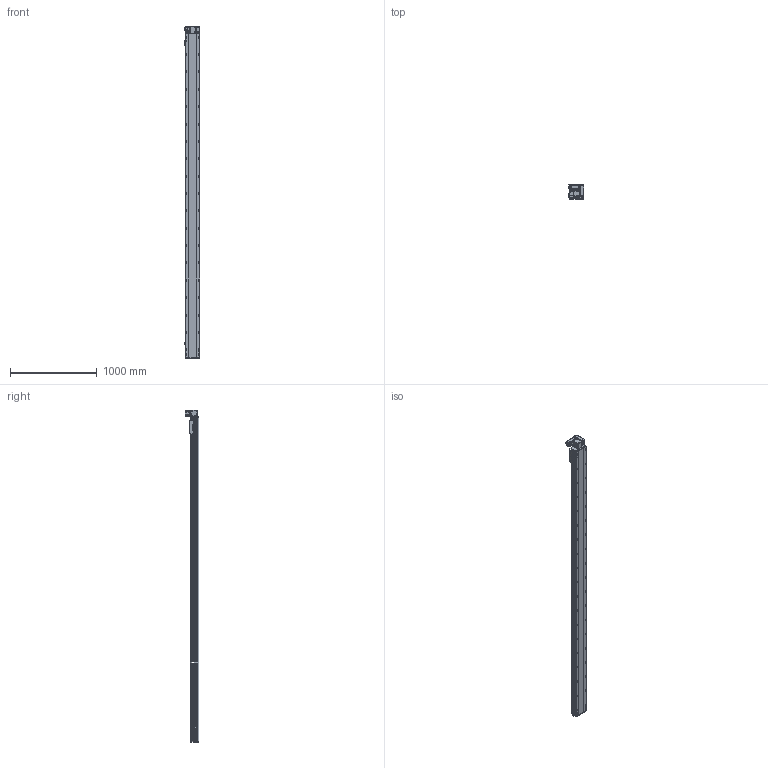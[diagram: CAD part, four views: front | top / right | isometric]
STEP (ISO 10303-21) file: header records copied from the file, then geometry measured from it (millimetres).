
FILE_DESCRIPTION (( 'STEP AP214' ), '1' );
FILE_NAME ('RTB17S-XX-3450-RW-M40-C4.STEP', '2025-12-11T09:20:30', ( '' ), ( '' ), 'SwSTEP 2.0', 'SolidWorks 2018', '' );
FILE_SCHEMA (( 'AUTOMOTIVE_DESIGN' ));
Length unit declared in the file: millimetre
Products named in the file (14): 400W侜督萇儂^RTB17S-XX-XX-RW-M40-C4; RTB17S-RW-々湍釱蚾饜-400W^RTB17S-XX-XX-RW-M40-C4; OMRON EE-SX672 传感器^RTB17S-XX-XX-RW-M40-C4; RTB17S-L-001耜醱啣^RTB17S-XX-XX-RW-M40-C4; RTB17S-L-004佪裝蹟譫蟀諉釱^RTB17S-XX-XX-RW-M40-C4; RTH13-BL-012覜茼え俋离^RTB17S-XX-XX-RW-M40-C4; RTB14-L-018P^RTB17S-RW-々湍釱蚾饜-400W_RTB17S-XX-XX-RW-M40-C4; RTB17S-L-007奻裔^RTB17S-XX-XX-RW-M40-C4; RMP17S-L-014-T20--々湍釱^RTB17S-RW-々湍釱蚾饜-400W_RTB17S-XX-XX-RW-M40-C4; RTB14-L-008-M20--萇儂啣^RTB17S-RW-々湍釱蚾饜-400W_RTB17S-XX-XX-RW-M40-C4; RTB14-L-017P^RTB17S-RW-々湍釱蚾饜-400W_RTB17S-XX-XX-RW-M40-C4; RTB14-L-005P--轴承塑胶压盖^RTB17S-RW-皮带座装配-400W_RTB17S-XX-XX-RW-M40-C4; RTB17S-XX-3450-RW-M40-C4; RTB17-R-011菁釱^RTB17S-XX-XX-RW-M40-C4
Assembly tree (16 placements, depth 3):
  RTB17S-XX-3450-RW-M40-C4
    RTB17-R-011菁釱^RTB17S-XX-XX-RW-M40-C4
    RTB17S-L-007奻裔^RTB17S-XX-XX-RW-M40-C4
    OMRON EE-SX672 传感器^RTB17S-XX-XX-RW-M40-C4  x3
    RTB17S-L-001耜醱啣^RTB17S-XX-XX-RW-M40-C4
    400W侜督萇儂^RTB17S-XX-XX-RW-M40-C4
    RTB17S-L-004佪裝蹟譫蟀諉釱^RTB17S-XX-XX-RW-M40-C4
    RTH13-BL-012覜茼え俋离^RTB17S-XX-XX-RW-M40-C4
    RTB17S-RW-々湍釱蚾饜-400W^RTB17S-XX-XX-RW-M40-C4
      RMP17S-L-014-T20--々湍釱^RTB17S-RW-々湍釱蚾饜-400W_RTB17S-XX-XX-RW-M40-C4
      RTB14-L-005P--轴承塑胶压盖^RTB17S-RW-皮带座装配-400W_RTB17S-XX-XX-RW-M40-C4
      RTB14-L-008-M20--萇儂啣^RTB17S-RW-々湍釱蚾饜-400W_RTB17S-XX-XX-RW-M40-C4
      RTB14-L-017P^RTB17S-RW-々湍釱蚾饜-400W_RTB17S-XX-XX-RW-M40-C4  x2
      RTB14-L-018P^RTB17S-RW-々湍釱蚾饜-400W_RTB17S-XX-XX-RW-M40-C4
Bounding box: 183.5 x 160.5 x 3822.5 mm (x, y, z)
Volume: 32348639.6 mm3; surface area: 3678627.4 mm2
Topology: 15 solids, 15 shells, 2413 faces, 6789 edges, 4437 vertices
Faces by surface type: plane 1094, cylinder 871, bspline 301, cone 139, torus 8
Entity records: 72617 total; most frequent: CARTESIAN_POINT 20794, ORIENTED_EDGE 10422, DIRECTION 9566, EDGE_CURVE 5211, VERTEX_POINT 3425, AXIS2_PLACEMENT_3D 3355, LINE 2856, VECTOR 2856
